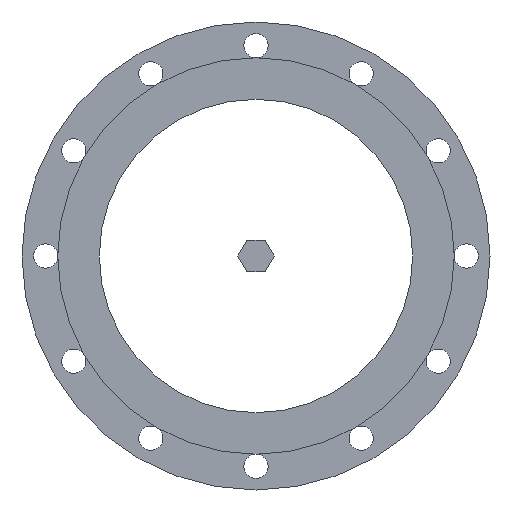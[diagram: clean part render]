
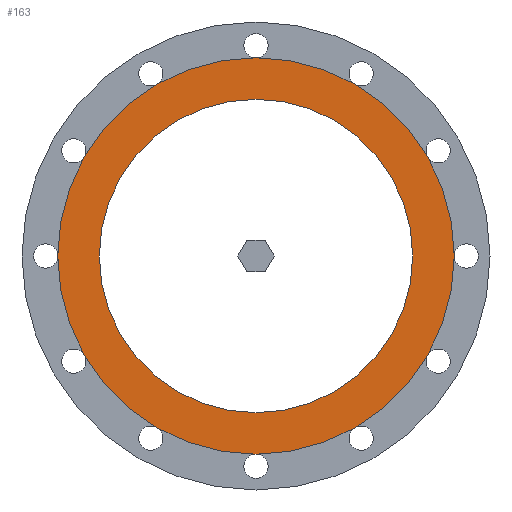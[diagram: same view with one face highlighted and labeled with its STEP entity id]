
A CAD part, front view. The second image highlights one B-rep face of the part: STEP entity #163.
In plain terms, the highlighted planar face has unit normal (0, -1, 0).
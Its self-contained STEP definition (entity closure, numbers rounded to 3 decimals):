
#163 = ADVANCED_FACE( '', ( #330, #331 ), #332, .T. );
#330 = FACE_OUTER_BOUND( '', #480, .T. );
#331 = FACE_BOUND( '', #481, .T. );
#332 = PLANE( '', #482 );
#480 = EDGE_LOOP( '', ( #686 ) );
#481 = EDGE_LOOP( '', ( #687 ) );
#482 = AXIS2_PLACEMENT_3D( '', #688, #689, #690 );
#686 = ORIENTED_EDGE( '', *, *, #779, .T. );
#687 = ORIENTED_EDGE( '', *, *, #781, .F. );
#688 = CARTESIAN_POINT( '', ( 149., 0., 0. ) );
#689 = DIRECTION( '', ( 0., -1., 0. ) );
#690 = DIRECTION( '', ( 0., 0., -1. ) );
#779 = EDGE_CURVE( '', #895, #895, #896, .T. );
#781 = EDGE_CURVE( '', #898, #898, #899, .T. );
#895 = VERTEX_POINT( '', #1037 );
#896 = CIRCLE( '', #1038, 188.5 );
#898 = VERTEX_POINT( '', #1040 );
#899 = CIRCLE( '', #1041, 149. );
#1037 = CARTESIAN_POINT( '', ( 0., 0., -188.5 ) );
#1038 = AXIS2_PLACEMENT_3D( '', #1167, #1168, #1169 );
#1040 = CARTESIAN_POINT( '', ( 0., 0., -149. ) );
#1041 = AXIS2_PLACEMENT_3D( '', #1170, #1171, #1172 );
#1167 = CARTESIAN_POINT( '', ( 0., 0., 0. ) );
#1168 = DIRECTION( '', ( 0., -1., 0. ) );
#1169 = DIRECTION( '', ( 0., 0., -1. ) );
#1170 = CARTESIAN_POINT( '', ( 0., 0., 0. ) );
#1171 = DIRECTION( '', ( 0., -1., 0. ) );
#1172 = DIRECTION( '', ( 0., 0., -1. ) );
